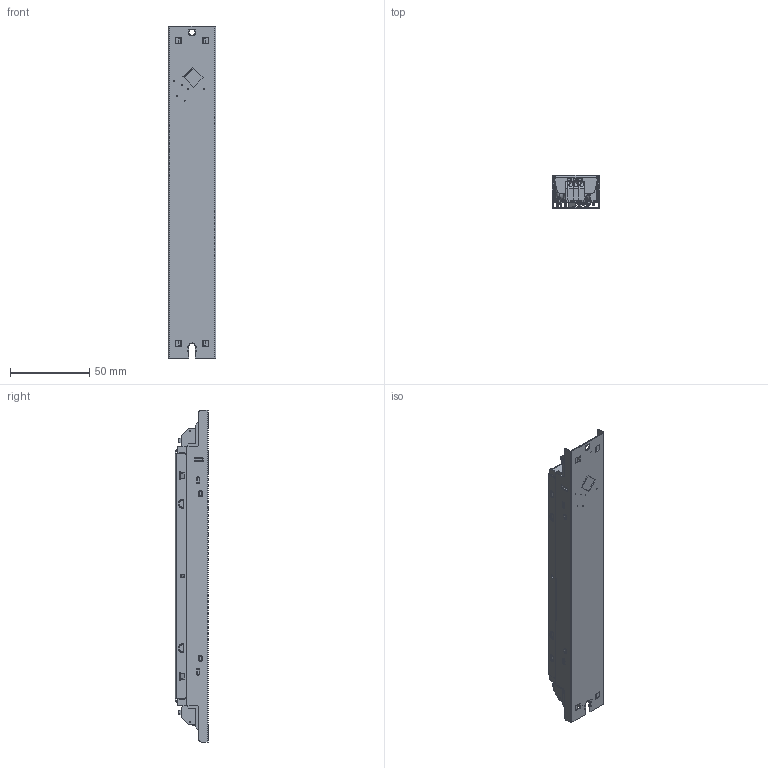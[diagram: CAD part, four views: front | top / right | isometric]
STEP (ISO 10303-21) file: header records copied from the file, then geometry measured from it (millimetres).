
FILE_DESCRIPTION (( 'STEP AP214' ), '1' );
FILE_NAME ('Linear Xit AUX+ 铁壳.STEP', '2024-02-21T03:07:27', ( '微软用户' ), ( '微软中国' ), 'SwSTEP 2.0', 'SolidWorks 2017', '' );
FILE_SCHEMA (( 'AUTOMOTIVE_DESIGN' ));
Length unit declared in the file: millimetre
Products named in the file (22): SS-12D07 2紫8.6x4.4x4.7; 针座PH2.0x3pin 单排弯90°; SK-25.4 2PIN; Linear Xit AUX+ 奻裔; Linear Xit AUX+ 沺褲; 8.6-4.5畢鎢; MM-EE1310曹揤ん; 僕耀萇覜LT9x5x3-4T; 傷赽晚极; CB7.5-9.5x4.5L; CX10-13x5L; TK-A-23-00X PCB; 2pin傷赽; Y电容CY-10; 等极傷赽; Linear Xit AUX+ 闔嶺え; 萇覜6x8-P2.5mm; SP-A-23-001 畢鎢杶; Linear Xit AUX+ 狟裔; 3pin傷赽; CE12.5x20 P5衵拏脣; CE10x16 P5衵拏脣
Assembly tree (30 placements, depth 3):
  Linear Xit AUX+ 沺褲
    TK-A-23-00X PCB
    3pin傷赽
      等极傷赽  x3
      傷赽晚极
    Linear Xit AUX+ 闔嶺え
    2pin傷赽
      等极傷赽  x2
      傷赽晚极
    Linear Xit AUX+ 狟裔
    Linear Xit AUX+ 奻裔
    8.6-4.5畢鎢
      SS-12D07 2紫8.6x4.4x4.7
    针座PH2.0x3pin 单排弯90°
    SK-25.4 2PIN
    CE12.5x20 P5衵拏脣
    SP-A-23-001 畢鎢杶
    MM-EE1310曹揤ん
    CE10x16 P5衵拏脣
    萇覜6x8-P2.5mm
    CX10-13x5L
    Y电容CY-10  x3
    CB7.5-9.5x4.5L  x2
    僕耀萇覜LT9x5x3-4T  x2
Bounding box: 30 x 21.3 x 210 mm (x, y, z)
Volume: 32577.4 mm3; surface area: 97406.9 mm2
Topology: 27 solids, 27 shells, 4877 faces, 12629 edges, 8046 vertices
Faces by surface type: plane 2305, bspline 1381, cylinder 821, torus 314, sphere 52, cone 4
Entity records: 171911 total; most frequent: CARTESIAN_POINT 83190, ORIENTED_EDGE 17680, DIRECTION 13752, EDGE_CURVE 8840, VERTEX_POINT 5648, LINE 5172, VECTOR 5172, AXIS2_PLACEMENT_3D 4290
